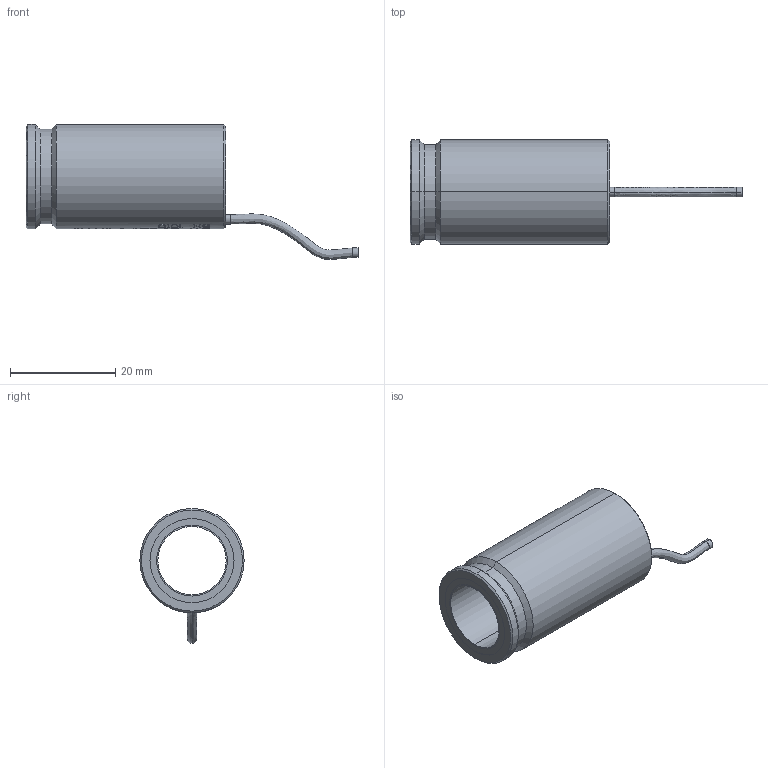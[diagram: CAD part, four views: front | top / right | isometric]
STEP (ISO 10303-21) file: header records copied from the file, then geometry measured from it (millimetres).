
FILE_DESCRIPTION((''),'2;1');
FILE_NAME('Z2617008-C_80','2009-11-17T',('11000065'),(''),'PRO/ENGINEER BY PARAMETRIC TECHNOLOGY CORPORATION, 2008490','PRO/ENGINEER BY PARAMETRIC TECHNOLOGY CORPORATION, 2008490','');
FILE_SCHEMA(('AUTOMOTIVE_DESIGN { 1 2 10303 214 0 1 1 1 }'));
Length unit declared in the file: millimetre
Products named in the file (1): Z2617008-C_80
Bounding box: 63.22 x 19.85 x 25.71 mm (x, y, z)
Volume: 6607.2 mm3; surface area: 4444.3 mm2
Topology: 1 solids, 1 shells, 884 faces, 2513 edges, 1670 vertices
Faces by surface type: plane 807, cylinder 67, cone 8, bspline 2
Entity records: 29037 total; most frequent: CARTESIAN_POINT 7594, ORIENTED_EDGE 5026, DIRECTION 3475, EDGE_CURVE 2513, VERTEX_POINT 1670, AXIS2_PLACEMENT_3D 1171, VECTOR 1133, LINE 1133
